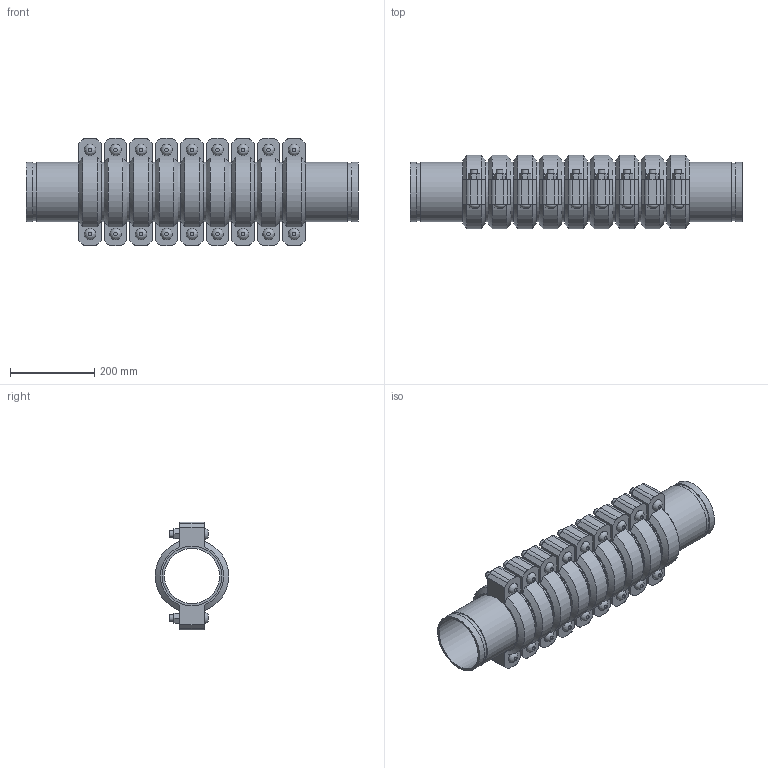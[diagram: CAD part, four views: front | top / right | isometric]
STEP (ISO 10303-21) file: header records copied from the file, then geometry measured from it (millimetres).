
FILE_DESCRIPTION(/* description */ ('VIC EXPANSION JOINT 9 COUPLINGS COMPRESSED STYLE 155 (OGS)','CAx-IF Rec.Pracs.---Representation and Presentation of Product Manufacturing Information (PMI)---4.0---2014-10-13'),/* implementation_level */ '2;1');
FILE_NAME(/* name */ 'C:\Users\kkamble\AppData\Roaming\Autodesk\ApplicationPlugins\Victaulic.Temp\A901\Victaulic_IPS_Expansion Joint_Compressed_9 Couplings_Style 155 (OGS)_5 (125).stp',/* time_stamp */ '2021-06-27T00:38:35+02:00',/* author */ ('kkamble'),/* organization */ ('Victaulic'),/* preprocessor_version */ 'ST-DEVELOPER v17.2',/* originating_system */ 'Autodesk Inventor 2019',/* authorisation */ '');
FILE_SCHEMA (('AP242_MANAGED_MODEL_BASED_3D_ENGINEERING_MIM_LF { 1 0 10303 442 1 1 4 }'));
Length unit declared in the file: inch
Products named in the file (4): 155-05.0; Nipple-05.0; Nipple-05.0_1; 075_9_Coup-05.0
Assembly tree (19 placements, depth 2):
  155-05.0
    Nipple-05.0  x2
    Nipple-05.0_1  x8
    075_9_Coup-05.0  x9
Bounding box: 787.65 x 174.16 x 255.78 mm (x, y, z)
Volume: 7577264.5 mm3; surface area: 1662401 mm2
Topology: 19 solids, 37 shells, 633 faces, 1497 edges, 1050 vertices
Faces by surface type: plane 384, cylinder 195, cone 36, bspline 18
Full cylindrical faces by diameter (mm): 15.875 x36, 17.424 x18, 130.988 x10, 134.95 x9, 137.033 x20, 141.3 x48
Entity records: 2874 total; most frequent: CARTESIAN_POINT 503, DIRECTION 481, ORIENTED_EDGE 386, AXIS2_PLACEMENT_3D 194, EDGE_CURVE 193, VERTEX_POINT 138, EDGE_LOOP 107, LINE 93
